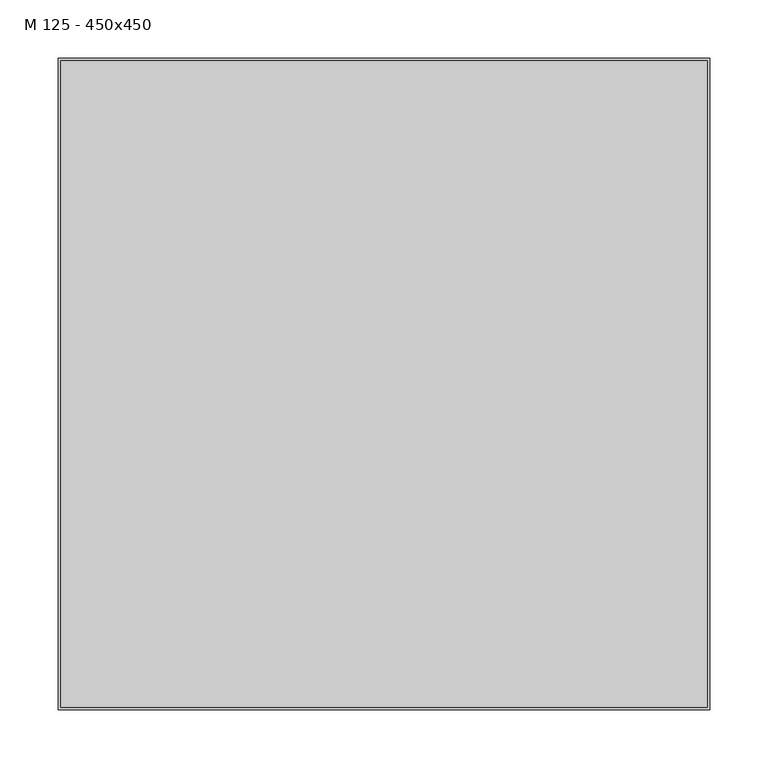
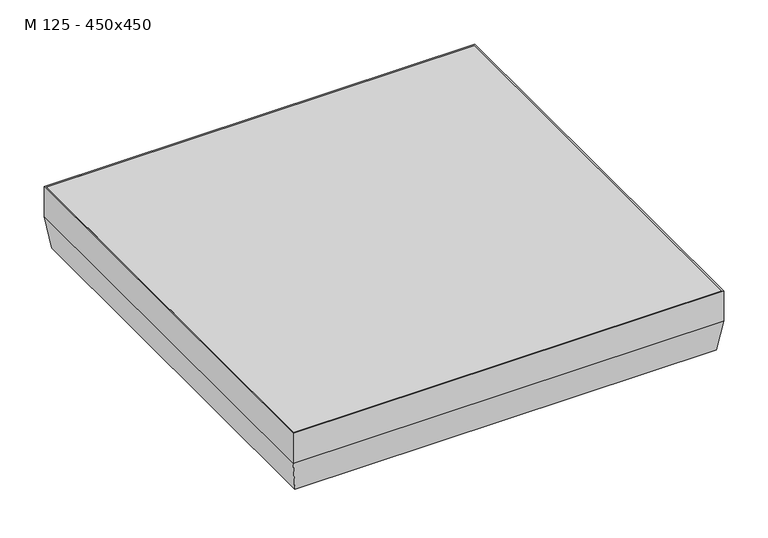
"""IFC4 building model written with IfcOpenShell, lengths in millimetres: proxy geometry, ME_ST_WPB_Access Cover UNIFACE 2.0 SS_ACO : M 125 - 450x450."""

import ifcopenshell
import ifcopenshell.guid

model = None  # the IFC model being written
_history = None  # IfcOwnerHistory: only IFC2X3 demands one
_inside = {}  # id of a spatial element -> (the spatial element, [elements in it])
_under = {}  # id of a project, library or spatial element -> (it, [spatial elements below it])
_declared = {}  # id of a project -> (the project, [libraries it declares])
_typed = {}  # id of a type object -> (the type object, [elements of that type])
_made_of = {}  # id of a material, layer set ... -> (it, [elements and type objects made of it])


def new_model(schema):
    """Start an empty IFC model of exactly this schema.

    Asked for "IFC4X3", IfcOpenShell would pick the latest addendum, in which some entities
    have other attributes; the version numbers below select the first issue.
    IFC2X3 requires an IfcOwnerHistory on every rooted entity: one is made here for all.
    """
    global model, _history
    if schema == "IFC4X3":
        model = ifcopenshell.file(schema_version=(4, 3, 0, 0))
    else:
        model = ifcopenshell.file(schema=schema)
    _inside.clear()
    _under.clear()
    _declared.clear()
    _typed.clear()
    _made_of.clear()
    _history = None
    if model.schema == "IFC2X3":
        org = make("IfcOrganization", Name="unknown")
        user = make(
            "IfcPersonAndOrganization",
            ThePerson=make("IfcPerson", FamilyName="unknown"),
            TheOrganization=org,
        )
        app = make(
            "IfcApplication",
            ApplicationDeveloper=org,
            Version="unknown",
            ApplicationFullName="unknown",
            ApplicationIdentifier="unknown",
        )
        _history = make(
            "IfcOwnerHistory",
            OwningUser=user,
            OwningApplication=app,
            ChangeAction="ADDED",
            CreationDate=0,
        )
    return model


def make(cls, **values):
    """One entity of the class cls with the attributes given. An attribute that is None is left unset."""
    return model.create_entity(
        cls, **{name: value for name, value in values.items() if value is not None}
    )


def rooted(cls, **values):
    """An entity with a GlobalId (a new one), such as an element, a storey or a relation."""
    return make(cls, GlobalId=ifcopenshell.guid.new(), OwnerHistory=_history, **values)


def si_unit(unit_type, name, prefix=None):
    """IfcSIUnit, for example si_unit("LENGTHUNIT", "METRE", prefix="MILLI")."""
    return make("IfcSIUnit", UnitType=unit_type, Prefix=prefix, Name=name)


def assignment(units):
    """IfcUnitAssignment: the units of a project."""
    return None if units is None else make("IfcUnitAssignment", Units=units)


def point(xyz):
    """IfcCartesianPoint."""
    return None if xyz is None else make("IfcCartesianPoint", Coordinates=xyz)


def direction(xyz):
    """IfcDirection."""
    return None if xyz is None else make("IfcDirection", DirectionRatios=xyz)


def frame(location, z_axis=None, x_axis=None):
    """IfcAxis2Placement3D, a coordinate frame: its origin and axes. An axis left out is left unset."""
    return make(
        "IfcAxis2Placement3D",
        Location=point(location),
        Axis=direction(z_axis),
        RefDirection=direction(x_axis),
    )


def origin():
    """The frame at (0, 0, 0) with its axes left unset."""
    return frame((0.0, 0.0, 0.0))


def place(relative_to, where):
    """IfcLocalPlacement: puts the frame where relative to a parent placement (None: the world)."""
    return make(
        "IfcLocalPlacement", PlacementRelTo=relative_to, RelativePlacement=where
    )


def context(
    kind, dimensions, precision=None, world=None, true_north=None, identifier=None
):
    """IfcGeometricRepresentationContext, for example the 3D "Model" context."""
    return make(
        "IfcGeometricRepresentationContext",
        ContextIdentifier=identifier,
        ContextType=kind,
        CoordinateSpaceDimension=dimensions,
        Precision=precision,
        WorldCoordinateSystem=world,
        TrueNorth=true_north,
    )


def project(units=None, contexts=None):
    """IfcProject with its units and contexts."""
    return rooted(
        "IfcProject",
        Name="project",
        RepresentationContexts=contexts,
        UnitsInContext=assignment(units),
    )


def spatial(cls, under=None, at=None, **own):
    """A site, building, storey or space (cls), placed at a placement, below another one or the project."""
    s = rooted(cls, ObjectPlacement=at, **own)
    if under is not None:
        _under.setdefault(under.id(), (under, []))[1].append(s)
    return s


def polyline(points):
    """IfcPolyline through the points."""
    return make("IfcPolyline", Points=[point(p) for p in points])


def outline(outer, holes=None, kind="AREA"):
    """IfcArbitraryClosedProfileDef: a profile drawn as a closed curve; with holes, ...WithVoids."""
    if holes is None:
        return make("IfcArbitraryClosedProfileDef", ProfileType=kind, OuterCurve=outer)
    return make(
        "IfcArbitraryProfileDefWithVoids",
        ProfileType=kind,
        OuterCurve=outer,
        InnerCurves=holes,
    )


def extrude(swept, where, along, depth):
    """IfcExtrudedAreaSolid: the profile swept, set in the frame where, extruded along a direction by depth."""
    return make(
        "IfcExtrudedAreaSolid",
        SweptArea=swept,
        Position=where,
        ExtrudedDirection=direction(along),
        Depth=depth,
    )


def faces_of(points, faces, orient=None, outer=None):
    """IfcFace entities. A face is a list of loops; a loop is a list of indices into points, from 0.

    orient and outer hold one flag for each loop. By default every Orientation is true, the
    first loop of a face is its IfcFaceOuterBound and the others are IfcFaceBound.
    """
    made = []
    for i, loops in enumerate(faces):
        bounds = []
        for j, loop in enumerate(loops):
            is_outer = j == 0 if outer is None else outer[i][j]
            bounds.append(
                make(
                    "IfcFaceOuterBound" if is_outer else "IfcFaceBound",
                    Bound=make("IfcPolyLoop", Polygon=[points[k] for k in loop]),
                    Orientation=True if orient is None else orient[i][j],
                )
            )
        made.append(make("IfcFace", Bounds=bounds))
    return made


def faceted_brep(points, faces, orient=None, outer=None, voids=None):
    """IfcFacetedBrep: a solid bounded by flat faces; with voids (closed shells), ...WithVoids."""
    shared = [point(p) for p in points]
    hull = make("IfcClosedShell", CfsFaces=faces_of(shared, faces, orient, outer))
    if voids is None:
        return make("IfcFacetedBrep", Outer=hull)
    return make(
        "IfcFacetedBrepWithVoids",
        Outer=hull,
        Voids=[
            make(cls, CfsFaces=faces_of(shared, fs, o, b)) for cls, fs, o, b in voids
        ],
    )


def shape(context_of_items, identifier, shape_type, items):
    """IfcShapeRepresentation: the items that make up one representation, for example the "Body"."""
    return make(
        "IfcShapeRepresentation",
        ContextOfItems=context_of_items,
        RepresentationIdentifier=identifier,
        RepresentationType=shape_type,
        Items=items,
    )


def source(mapping_origin, context_of_items, identifier, shape_type, items):
    """IfcRepresentationMap: a shape defined once, which mapped items show again and again."""
    return make(
        "IfcRepresentationMap",
        MappingOrigin=mapping_origin,
        MappedRepresentation=shape(context_of_items, identifier, shape_type, items),
    )


def transform(
    local_origin,
    x_axis=None,
    y_axis=None,
    z_axis=None,
    scale=None,
    scale2=None,
    scale3=None,
    uniform=True,
):
    """IfcCartesianTransformationOperator3D, or its non-uniform kind. x_axis, y_axis, z_axis: its Axis1, 2, 3."""
    if uniform:
        return make(
            "IfcCartesianTransformationOperator3D",
            Axis1=direction(x_axis),
            Axis2=direction(y_axis),
            LocalOrigin=point(local_origin),
            Scale=scale,
            Axis3=direction(z_axis),
        )
    return make(
        "IfcCartesianTransformationOperator3DnonUniform",
        Axis1=direction(x_axis),
        Axis2=direction(y_axis),
        LocalOrigin=point(local_origin),
        Scale=scale,
        Axis3=direction(z_axis),
        Scale2=scale2,
        Scale3=scale3,
    )


def mapped(mapping_source, mapping_target):
    """IfcMappedItem: shows the shape of a source again, moved by a transform."""
    return make(
        "IfcMappedItem", MappingSource=mapping_source, MappingTarget=mapping_target
    )


def made_of(thing, what):
    """Note that an element or type object is made of a material, layer set ...; save() writes the relation."""
    if what is not None:
        _made_of.setdefault(what.id(), (what, []))[1].append(thing)
    return thing


def element(
    cls,
    number,
    at=None,
    inside=None,
    cuts=None,
    type_object=None,
    material=None,
    context=None,
    identifier="Body",
    shape_type=None,
    held_by="IfcProductDefinitionShape",
    body=None,
    shapes=None,
    **own,
):
    """One element of the class cls, such as IfcWall. Its Tag is "e" and its number.

    at: its placement. inside: the storey or other place that contains it. cuts: it is an
    opening in that element (IfcRelVoidsElement). A single representation is given by context,
    identifier, shape_type and body (its items); several are given by shapes. held_by: the class
    of the entity that holds the representations. save() writes the other relations.
    """
    e = rooted(cls, Tag="e%d" % number, ObjectPlacement=at, **own)
    if body is not None:
        shapes = [shape(context, identifier, shape_type, body)]
    if shapes is not None:
        e.Representation = make(held_by, Representations=shapes)
    if inside is not None:
        _inside.setdefault(inside.id(), (inside, []))[1].append(e)
    if cuts is not None:
        rooted(
            "IfcRelVoidsElement", RelatingBuildingElement=cuts, RelatedOpeningElement=e
        )
    if type_object is not None:
        _typed.setdefault(type_object.id(), (type_object, []))[1].append(e)
    return made_of(e, material)


def aggregate(whole, parts):
    """IfcRelAggregates: a whole, such as a stair, and the parts it consists of."""
    return rooted("IfcRelAggregates", RelatingObject=whole, RelatedObjects=parts)


def save(model, path):
    """Write the relations noted so far, then the file.

    IfcRelAggregates (storeys below a building ...), IfcRelContainedInSpatialStructure (elements
    in a storey), IfcRelDefinesByType, IfcRelAssociatesMaterial and IfcRelDeclares: one each for
    every whole, place, type object, material and project.
    """
    for whole, parts in _under.values():
        aggregate(whole, parts)
    for where, things in _inside.values():
        rooted(
            "IfcRelContainedInSpatialStructure",
            RelatedElements=things,
            RelatingStructure=where,
        )
    for kind, things in _typed.values():
        rooted("IfcRelDefinesByType", RelatedObjects=things, RelatingType=kind)
    for what, things in _made_of.values():
        rooted("IfcRelAssociatesMaterial", RelatedObjects=things, RelatingMaterial=what)
    for by, libraries in _declared.values():
        rooted("IfcRelDeclares", RelatingContext=by, RelatedDefinitions=libraries)
    model.write(path)


def m_125_450x450_feb239c9(model_context):
    return source(origin(), model_context, "Body", "SolidModel", [
        extrude(outline(polyline([(225.0, 225.0), (225.0, -225.0), (-225.0, -225.0), (-225.0, 225.0), (225.0, 225.0)])), frame((0.0, 0.0, -70.0), z_axis=(0.0, 0.0, 1.0), x_axis=(1.0, 0.0, 0.0)), (0.0, 0.0, 1.0), 2.0),
        extrude(outline(polyline([(277.9610723, 277.9610723), (277.9610723, -277.9610723), (-277.9610723, -277.9610723), (-277.9610723, 277.9610723), (277.9610723, 277.9610723)])), frame((0.0, 0.0, -5.0), z_axis=(0.0, 0.0, 1.0), x_axis=(1.0, 0.0, 0.0)), (0.0, 0.0, 1.0), 5.0),
        faceted_brep([(277.9610723, 277.9610723, 0.0), (277.9610723, 277.9610723, -40.6371315), (277.9610723, -277.9610723, -40.6371315), (277.9610723, -277.9610723, 0.0), (279.9610723, 279.9610723, -40.7769852), (279.9610723, 279.9610723, 0.0), (279.9610723, -279.9610723, 0.0), (279.9610723, -279.9610723, -40.7769852), (-277.9610723, -277.9610723, -40.6371315), (-277.9610723, -277.9610723, 0.0), (-279.9610723, -279.9610723, 0.0), (-279.9610723, -279.9610723, -40.7769852), (-277.9610723, 277.9610723, -40.6371315), (-277.9610723, 277.9610723, 0.0), (-279.9610723, 279.9610723, 0.0), (-279.9610723, 279.9610723, -40.7769852), (272.3587115, 272.3587115, -80.5), (272.3587115, -272.3587115, -80.5), (-272.3587115, -272.3587115, -80.5), (-272.3587115, 272.3587115, -80.5), (225.0, -225.0, -80.5), (-225.0, -225.0, -80.5), (-225.0, 225.0, -80.5), (225.0, 225.0, -80.5), (274.0972849, -274.0972849, -82.5), (-274.0972849, -274.0972849, -82.5), (-274.0972849, 274.0972849, -82.5), (274.0972849, 274.0972849, -82.5), (225.0, 225.0, -82.5), (-225.0, 225.0, -82.5), (-225.0, -225.0, -82.5), (225.0, -225.0, -82.5)], [[[0, 1, 2, 3]], [[4, 5, 6, 7]], [[3, 2, 8, 9]], [[7, 6, 10, 11]], [[9, 8, 12, 13]], [[11, 10, 14, 15]], [[13, 12, 1, 0]], [[5, 14, 10, 6], [3, 9, 13, 0]], [[15, 14, 5, 4]], [[1, 16, 17, 2]], [[2, 17, 18, 8]], [[8, 18, 19, 12]], [[16, 19, 18, 17], [20, 21, 22, 23]], [[12, 19, 16, 1]], [[24, 25, 26, 27], [28, 29, 30, 31]], [[23, 28, 31, 20]], [[20, 31, 30, 21]], [[21, 30, 29, 22]], [[22, 29, 28, 23]], [[27, 4, 7, 24]], [[24, 7, 11, 25]], [[25, 11, 15, 26]], [[26, 15, 4, 27]]]),
    ])


if __name__ == "__main__":
    model = new_model("IFC4")
    model_context = context("Model", 3, world=origin())
    ifc_project = project(units=[si_unit("LENGTHUNIT", "METRE", prefix="MILLI")], contexts=[model_context])
    site = spatial("IfcSite", under=ifc_project)
    building = spatial("IfcBuilding", under=site)
    placement = place(None, origin())
    m_125_450x450_shape = m_125_450x450_feb239c9(model_context)
    element("IfcBuildingElementProxy", 1, Name="ME_ST_WPB_Access Cover UNIFACE 2.0 SS_ACO : M 125 - 450x450", ObjectType="ME_ST_WPB_Access Cover UNIFACE 2.0 SS_ACO : M 125 - 450x450", at=placement, inside=building, context=model_context, shape_type="MappedRepresentation", body=[
        mapped(m_125_450x450_shape, transform((0.0, 0.0, 0.0), x_axis=(1.0, 0.0, 0.0), y_axis=(0.0, 1.0, 0.0), z_axis=(0.0, 0.0, 1.0))),
    ])
    save(model, "model.ifc")
